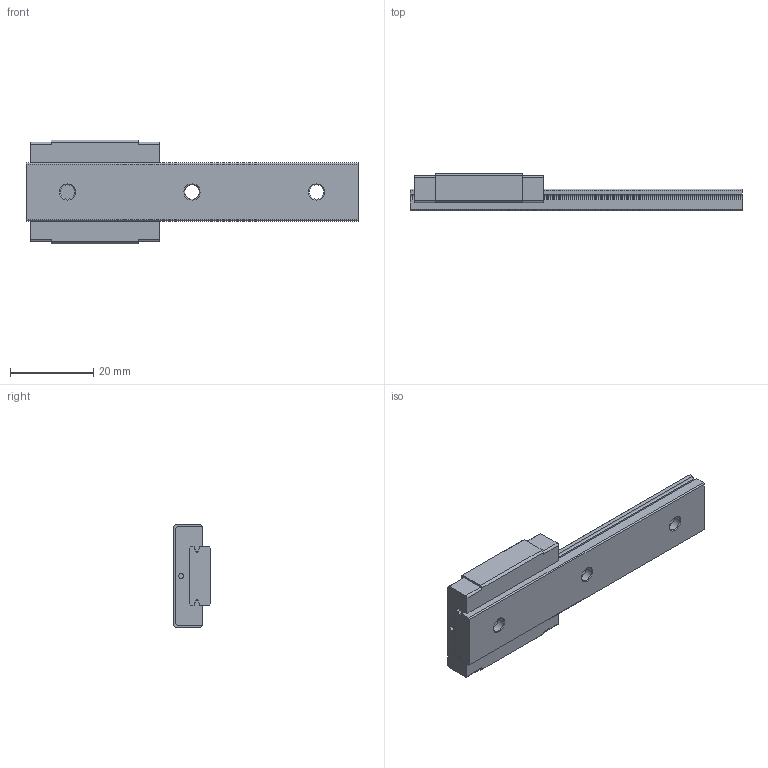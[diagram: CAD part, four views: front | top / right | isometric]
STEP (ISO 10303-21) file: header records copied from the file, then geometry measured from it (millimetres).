
FILE_DESCRIPTION( ( 'STEP AP214' ), '1' );
FILE_NAME( 'C:/Users/Futia/Documents/MLW7C.stp', '2021-11-04T07:04:39', ( 'License CC BY-ND 4.0' ), ( 'CADENAS' ), ' ', 'PARTsolutions', ' ' );
FILE_SCHEMA( ( 'AUTOMOTIVE_DESIGN { 1 0 10303 214 1 1 1 1 }' ) );
Length unit declared in the file: millimetre
Products named in the file (3): SWCC-H9-1-L80-E10; _SWCC-H9-1-L80-E10_SWCC_GUIDERAIL; _SWCC-H9-1-L80-E10_SWCC_BLOCK
Assembly tree (2 placements, depth 2):
  SWCC-H9-1-L80-E10
    _SWCC-H9-1-L80-E10_SWCC_GUIDERAIL
    _SWCC-H9-1-L80-E10_SWCC_BLOCK
Bounding box: 80 x 9 x 25 mm (x, y, z)
Volume: 9196 mm3; surface area: 6259.5 mm2
Topology: 2 solids, 2 shells, 105 faces, 266 edges, 174 vertices
Faces by surface type: plane 63, cylinder 32, cone 10
Full cylindrical faces by diameter (mm): 1.2 x2, 2.459 x4, 3.51 x3, 6.01 x3
Entity records: 3950 total; most frequent: DIRECTION 534, CARTESIAN_POINT 526, ORIENTED_EDGE 488, EDGE_CURVE 244, AXIS2_PLACEMENT_3D 182, VERTEX_POINT 174, LINE 170, VECTOR 170
